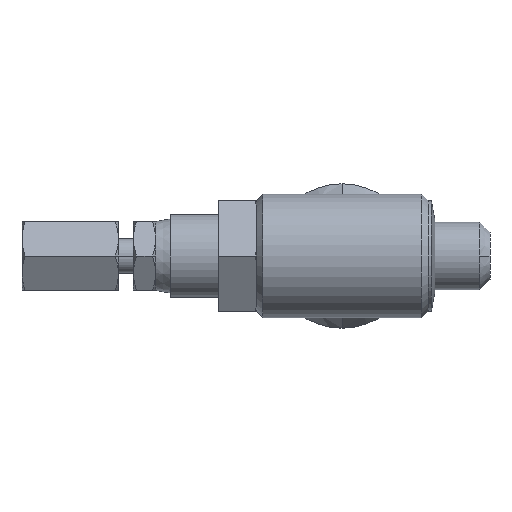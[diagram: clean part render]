
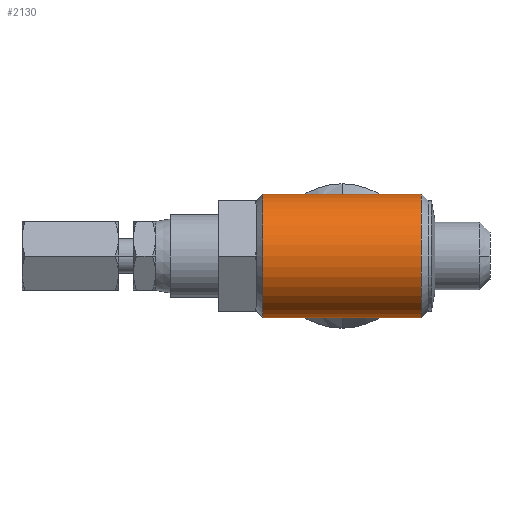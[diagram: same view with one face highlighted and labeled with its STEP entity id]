
A CAD part, left-side view. The second image highlights one B-rep face of the part: STEP entity #2130.
In plain terms, the highlighted cylindrical face has radius 4.5 mm (diameter 9 mm), a partial arc.
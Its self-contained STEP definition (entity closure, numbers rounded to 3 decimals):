
#45 = CARTESIAN_POINT ( 'NONE',  ( 0., 16.5, 0. ) ) ;
#584 = CARTESIAN_POINT ( 'NONE',  ( 0., 5., -4.5 ) ) ;
#1219 = AXIS2_PLACEMENT_3D ( 'NONE', #1354, #7742, #10978 ) ;
#1266 = DIRECTION ( 'NONE',  ( 0., 0., -1. ) ) ;
#1354 = CARTESIAN_POINT ( 'NONE',  ( 0., 5., 0. ) ) ;
#2130 = ADVANCED_FACE ( 'NONE', ( #4472 ), #8796, .T. ) ;
#2147 = VERTEX_POINT ( 'NONE', #13154 ) ;
#2518 = EDGE_CURVE ( 'NONE', #2147, #3150, #12932, .T. ) ;
#2775 = CARTESIAN_POINT ( 'NONE',  ( 0., 5., 4.5 ) ) ;
#3061 = EDGE_CURVE ( 'NONE', #10069, #3150, #12913, .T. ) ;
#3150 = VERTEX_POINT ( 'NONE', #2775 ) ;
#3151 = DIRECTION ( 'NONE',  ( 0., -1., 0. ) ) ;
#4472 = FACE_OUTER_BOUND ( 'NONE', #8415, .T. ) ;
#5519 = VERTEX_POINT ( 'NONE', #10032 ) ;
#6000 = ORIENTED_EDGE ( 'NONE', *, *, #12793, .T. ) ;
#6203 = CARTESIAN_POINT ( 'NONE',  ( 0., 3.5, -4.5 ) ) ;
#6308 = EDGE_CURVE ( 'NONE', #5519, #10069, #9627, .T. ) ;
#7330 = DIRECTION ( 'NONE',  ( 0., 0., -1. ) ) ;
#7597 = DIRECTION ( 'NONE',  ( 0., -1., 0. ) ) ;
#7742 = DIRECTION ( 'NONE',  ( 0., 1., 0. ) ) ;
#8415 = EDGE_LOOP ( 'NONE', ( #13762, #6000, #13519, #13429 ) ) ;
#8781 = VECTOR ( 'NONE', #11934, 1000. ) ;
#8796 = CYLINDRICAL_SURFACE ( 'NONE', #13093, 4.5 ) ;
#9489 = CIRCLE ( 'NONE', #13635, 4.5 ) ;
#9627 = LINE ( 'NONE', #6203, #8781 ) ;
#10032 = CARTESIAN_POINT ( 'NONE',  ( 0., 16.5, -4.5 ) ) ;
#10069 = VERTEX_POINT ( 'NONE', #584 ) ;
#10315 = CARTESIAN_POINT ( 'NONE',  ( 0., 3.5, 4.5 ) ) ;
#10978 = DIRECTION ( 'NONE',  ( 0., 0., -1. ) ) ;
#11851 = CARTESIAN_POINT ( 'NONE',  ( 0., 3.5, 0. ) ) ;
#11934 = DIRECTION ( 'NONE',  ( 0., -1., 0. ) ) ;
#12793 = EDGE_CURVE ( 'NONE', #2147, #5519, #9489, .T. ) ;
#12913 = CIRCLE ( 'NONE', #1219, 4.5 ) ;
#12932 = LINE ( 'NONE', #10315, #13618 ) ;
#13093 = AXIS2_PLACEMENT_3D ( 'NONE', #11851, #7597, #1266 ) ;
#13154 = CARTESIAN_POINT ( 'NONE',  ( 0., 16.5, 4.5 ) ) ;
#13429 = ORIENTED_EDGE ( 'NONE', *, *, #3061, .T. ) ;
#13519 = ORIENTED_EDGE ( 'NONE', *, *, #6308, .T. ) ;
#13618 = VECTOR ( 'NONE', #13654, 1000. ) ;
#13635 = AXIS2_PLACEMENT_3D ( 'NONE', #45, #3151, #7330 ) ;
#13654 = DIRECTION ( 'NONE',  ( 0., -1., 0. ) ) ;
#13762 = ORIENTED_EDGE ( 'NONE', *, *, #2518, .F. ) ;
